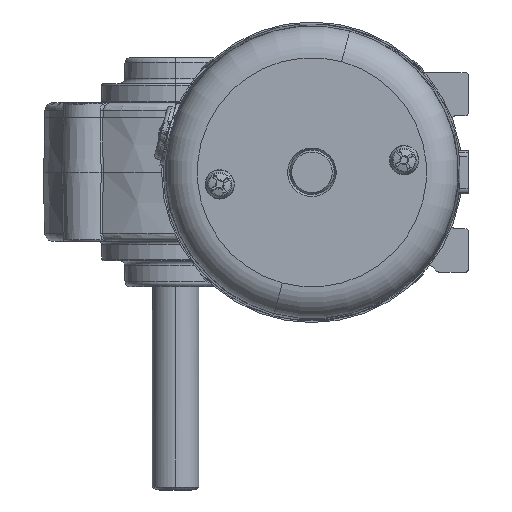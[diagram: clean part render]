
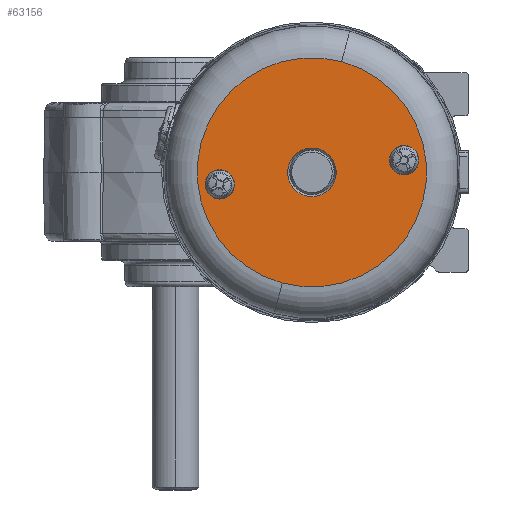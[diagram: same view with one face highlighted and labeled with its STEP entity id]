
A CAD part, left-side view. The second image highlights one B-rep face of the part: STEP entity #63156.
In plain terms, the highlighted planar face has unit normal (-1, 0, 0).
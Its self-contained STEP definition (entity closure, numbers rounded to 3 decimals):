
#757 = DIRECTION ( 'NONE',  ( 1., 0., 0. ) ) ;
#1463 = VERTEX_POINT ( 'NONE', #55733 ) ;
#2675 = CARTESIAN_POINT ( 'NONE',  ( -43.995, 139.161, 213.641 ) ) ;
#4701 = VERTEX_POINT ( 'NONE', #95167 ) ;
#4891 = EDGE_CURVE ( 'NONE', #66634, #11437, #113638, .T. ) ;
#5429 = DIRECTION ( 'NONE',  ( 0., 0.966, 0.259 ) ) ;
#7391 = EDGE_LOOP ( 'NONE', ( #98803, #36575 ) ) ;
#10127 = CIRCLE ( 'NONE', #106200, 2.159 ) ;
#11365 = FACE_BOUND ( 'NONE', #25424, .T. ) ;
#11437 = VERTEX_POINT ( 'NONE', #2675 ) ;
#11656 = CARTESIAN_POINT ( 'NONE',  ( -43.995, 166.468, 205.075 ) ) ;
#13520 = PLANE ( 'NONE',  #132903 ) ;
#16726 = EDGE_CURVE ( 'NONE', #1463, #4701, #23133, .T. ) ;
#18091 = DIRECTION ( 'NONE',  ( 0., 0.966, 0.259 ) ) ;
#19386 = VERTEX_POINT ( 'NONE', #119778 ) ;
#23133 = CIRCLE ( 'NONE', #128575, 29.371 ) ;
#23356 = EDGE_CURVE ( 'NONE', #96643, #19386, #40604, .T. ) ;
#24312 = AXIS2_PLACEMENT_3D ( 'NONE', #34062, #78900, #136104 ) ;
#24568 = DIRECTION ( 'NONE',  ( 1., 0., 0. ) ) ;
#25424 = EDGE_LOOP ( 'NONE', ( #129606, #111276 ) ) ;
#26165 = CARTESIAN_POINT ( 'NONE',  ( -43.995, 164.382, 204.516 ) ) ;
#30083 = DIRECTION ( 'NONE',  ( 1., 0., 0. ) ) ;
#34031 = FACE_BOUND ( 'NONE', #76395, .T. ) ;
#34062 = CARTESIAN_POINT ( 'NONE',  ( -43.995, 117.165, 210.733 ) ) ;
#35356 = CARTESIAN_POINT ( 'NONE',  ( -43.995, 162.297, 203.958 ) ) ;
#36575 = ORIENTED_EDGE ( 'NONE', *, *, #68779, .T. ) ;
#39645 = DIRECTION ( 'NONE',  ( 0., 0.259, -0.966 ) ) ;
#40604 = CIRCLE ( 'NONE', #24312, 2.159 ) ;
#42096 = DIRECTION ( 'NONE',  ( 0., 0.966, 0.259 ) ) ;
#43597 = DIRECTION ( 'NONE',  ( -1., 0., 0. ) ) ;
#46176 = EDGE_CURVE ( 'NONE', #11437, #66634, #47907, .T. ) ;
#47907 = CIRCLE ( 'NONE', #118312, 6.228 ) ;
#48004 = AXIS2_PLACEMENT_3D ( 'NONE', #63582, #97352, #18091 ) ;
#49441 = CARTESIAN_POINT ( 'NONE',  ( -43.995, 140.773, 207.625 ) ) ;
#55733 = CARTESIAN_POINT ( 'NONE',  ( -43.995, 148.375, 179.254 ) ) ;
#56100 = FACE_BOUND ( 'NONE', #7391, .T. ) ;
#58369 = EDGE_LOOP ( 'NONE', ( #91995, #63830 ) ) ;
#60522 = CIRCLE ( 'NONE', #142621, 29.371 ) ;
#60858 = EDGE_CURVE ( 'NONE', #4701, #1463, #60522, .T. ) ;
#61169 = CARTESIAN_POINT ( 'NONE',  ( -43.995, 140.773, 207.625 ) ) ;
#63156 = ADVANCED_FACE ( 'NONE', ( #11365, #56100, #67150, #34031 ), #13520, .T. ) ;
#63582 = CARTESIAN_POINT ( 'NONE',  ( -43.995, 140.773, 207.625 ) ) ;
#63830 = ORIENTED_EDGE ( 'NONE', *, *, #60858, .F. ) ;
#66634 = VERTEX_POINT ( 'NONE', #86424 ) ;
#67150 = FACE_OUTER_BOUND ( 'NONE', #58369, .T. ) ;
#68779 = EDGE_CURVE ( 'NONE', #72171, #74233, #75357, .T. ) ;
#72120 = ORIENTED_EDGE ( 'NONE', *, *, #4891, .T. ) ;
#72171 = VERTEX_POINT ( 'NONE', #35356 ) ;
#72235 = DIRECTION ( 'NONE',  ( 0., 0.259, -0.966 ) ) ;
#74011 = AXIS2_PLACEMENT_3D ( 'NONE', #99416, #78809, #42096 ) ;
#74233 = VERTEX_POINT ( 'NONE', #11656 ) ;
#75357 = CIRCLE ( 'NONE', #108265, 2.159 ) ;
#76395 = EDGE_LOOP ( 'NONE', ( #72120, #120870 ) ) ;
#78809 = DIRECTION ( 'NONE',  ( 1., 0., 0. ) ) ;
#78900 = DIRECTION ( 'NONE',  ( 1., 0., 0. ) ) ;
#86424 = CARTESIAN_POINT ( 'NONE',  ( -43.995, 142.385, 201.608 ) ) ;
#88418 = DIRECTION ( 'NONE',  ( 0., 0.966, 0.259 ) ) ;
#91995 = ORIENTED_EDGE ( 'NONE', *, *, #16726, .F. ) ;
#95167 = CARTESIAN_POINT ( 'NONE',  ( -43.995, 133.172, 235.995 ) ) ;
#96643 = VERTEX_POINT ( 'NONE', #136939 ) ;
#97352 = DIRECTION ( 'NONE',  ( 1., 0., 0. ) ) ;
#97671 = CARTESIAN_POINT ( 'NONE',  ( -43.995, 140.773, 207.625 ) ) ;
#98803 = ORIENTED_EDGE ( 'NONE', *, *, #131892, .T. ) ;
#99416 = CARTESIAN_POINT ( 'NONE',  ( -43.995, 117.165, 210.733 ) ) ;
#104737 = DIRECTION ( 'NONE',  ( 0., 0.966, 0.259 ) ) ;
#105955 = DIRECTION ( 'NONE',  ( 1., 0., 0. ) ) ;
#106200 = AXIS2_PLACEMENT_3D ( 'NONE', #121223, #757, #123378 ) ;
#108265 = AXIS2_PLACEMENT_3D ( 'NONE', #26165, #115784, #104737 ) ;
#108408 = EDGE_CURVE ( 'NONE', #19386, #96643, #139742, .T. ) ;
#111276 = ORIENTED_EDGE ( 'NONE', *, *, #108408, .T. ) ;
#113638 = CIRCLE ( 'NONE', #48004, 6.228 ) ;
#115784 = DIRECTION ( 'NONE',  ( 1., 0., 0. ) ) ;
#118312 = AXIS2_PLACEMENT_3D ( 'NONE', #61169, #105955, #5429 ) ;
#119778 = CARTESIAN_POINT ( 'NONE',  ( -43.995, 115.079, 210.174 ) ) ;
#120870 = ORIENTED_EDGE ( 'NONE', *, *, #46176, .T. ) ;
#121223 = CARTESIAN_POINT ( 'NONE',  ( -43.995, 164.382, 204.516 ) ) ;
#123378 = DIRECTION ( 'NONE',  ( 0., 0.966, 0.259 ) ) ;
#128575 = AXIS2_PLACEMENT_3D ( 'NONE', #49441, #24568, #72235 ) ;
#129606 = ORIENTED_EDGE ( 'NONE', *, *, #23356, .T. ) ;
#131892 = EDGE_CURVE ( 'NONE', #74233, #72171, #10127, .T. ) ;
#132903 = AXIS2_PLACEMENT_3D ( 'NONE', #144277, #43597, #88418 ) ;
#136104 = DIRECTION ( 'NONE',  ( 0., 0.966, 0.259 ) ) ;
#136939 = CARTESIAN_POINT ( 'NONE',  ( -43.995, 119.25, 211.291 ) ) ;
#139742 = CIRCLE ( 'NONE', #74011, 2.159 ) ;
#142621 = AXIS2_PLACEMENT_3D ( 'NONE', #97671, #30083, #39645 ) ;
#144277 = CARTESIAN_POINT ( 'NONE',  ( -43.995, 145.38, 190.431 ) ) ;
